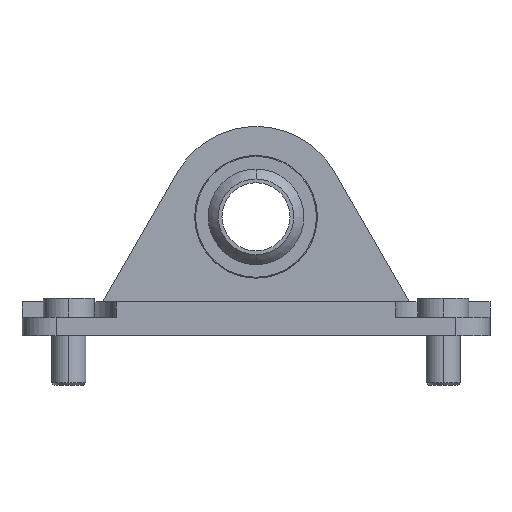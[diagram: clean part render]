
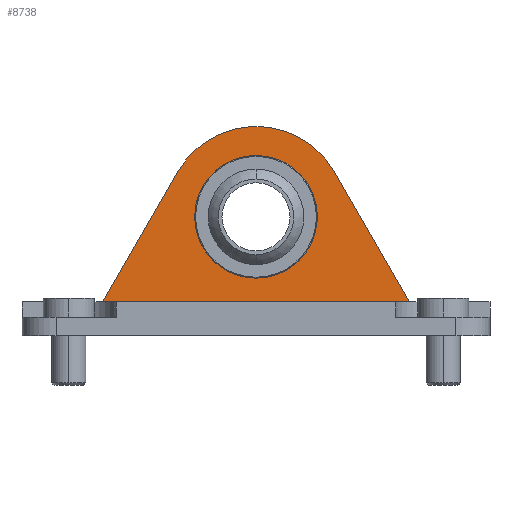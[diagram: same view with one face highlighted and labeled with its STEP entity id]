
A CAD part, left-side view. The second image highlights one B-rep face of the part: STEP entity #8738.
In plain terms, the highlighted planar face has unit normal (-1, 0, 0.018).
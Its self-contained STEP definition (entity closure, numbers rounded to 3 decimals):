
#388=DIRECTION('',(0.,1.,0.));
#389=VECTOR('',#388,180.133);
#390=CARTESIAN_POINT('',(-17.5,-90.067,20.));
#391=LINE('',#390,#389);
#1860=DIRECTION('',(0.015,-0.5,0.866));
#1861=VECTOR('',#1860,88.345);
#1862=CARTESIAN_POINT('',(-17.5,90.067,20.));
#1863=LINE('',#1862,#1861);
#1864=CARTESIAN_POINT('',(-16.165,45.899,96.5));
#1865=CARTESIAN_POINT('',(-16.15,45.421,97.328));
#1866=CARTESIAN_POINT('',(-16.123,44.465,98.882));
#1867=CARTESIAN_POINT('',(-16.087,43.031,100.974));
#1868=CARTESIAN_POINT('',(-16.053,41.596,102.871));
#1869=CARTESIAN_POINT('',(-16.013,39.684,105.185));
#1870=CARTESIAN_POINT('',(-15.969,37.293,107.731));
#1871=CARTESIAN_POINT('',(-15.923,34.425,110.357));
#1872=CARTESIAN_POINT('',(-15.883,31.556,112.632));
#1873=CARTESIAN_POINT('',(-15.837,27.731,115.267));
#1874=CARTESIAN_POINT('',(-15.791,22.95,117.914));
#1875=CARTESIAN_POINT('',(-15.75,17.212,120.249));
#1876=CARTESIAN_POINT('',(-15.722,11.475,121.854));
#1877=CARTESIAN_POINT('',(-15.706,5.737,122.794));
#1878=CARTESIAN_POINT('',(-15.7,0.,123.103));
#1879=CARTESIAN_POINT('',(-15.706,-5.737,
122.794));
#1880=CARTESIAN_POINT('',(-15.722,-11.475,
121.854));
#1881=CARTESIAN_POINT('',(-15.75,-17.212,
120.249));
#1882=CARTESIAN_POINT('',(-15.791,-22.95,
117.914));
#1883=CARTESIAN_POINT('',(-15.837,-27.731,
115.267));
#1884=CARTESIAN_POINT('',(-15.883,-31.556,
112.632));
#1885=CARTESIAN_POINT('',(-15.923,-34.425,
110.357));
#1886=CARTESIAN_POINT('',(-15.969,-37.293,
107.731));
#1887=CARTESIAN_POINT('',(-16.013,-39.684,
105.185));
#1888=CARTESIAN_POINT('',(-16.053,-41.596,
102.871));
#1889=CARTESIAN_POINT('',(-16.087,-43.031,
100.974));
#1890=CARTESIAN_POINT('',(-16.123,-44.465,
98.882));
#1891=CARTESIAN_POINT('',(-16.15,-45.421,97.328));
#1892=CARTESIAN_POINT('',(-16.165,-45.899,96.5));
#1894=DIRECTION('',(-0.015,-0.5,-0.866));
#1895=VECTOR('',#1894,88.345);
#1896=CARTESIAN_POINT('',(-16.165,-45.899,96.5));
#1897=LINE('',#1896,#1895);
#1954=CARTESIAN_POINT('',(-17.,-28.982,48.645));
#1955=CARTESIAN_POINT('',(-17.014,-28.378,
47.826));
#1956=CARTESIAN_POINT('',(-17.04,-27.171,
46.33));
#1957=CARTESIAN_POINT('',(-17.074,-25.359,
44.406));
#1958=CARTESIAN_POINT('',(-17.103,-23.548,
42.735));
#1959=CARTESIAN_POINT('',(-17.137,-21.133,
40.786));
#1960=CARTESIAN_POINT('',(-17.172,-18.114,
38.796));
#1961=CARTESIAN_POINT('',(-17.204,-14.491,
36.967));
#1962=CARTESIAN_POINT('',(-17.228,-10.868,
35.61));
#1963=CARTESIAN_POINT('',(-17.244,-7.246,
34.672));
#1964=CARTESIAN_POINT('',(-17.254,-3.623,
34.121));
#1965=CARTESIAN_POINT('',(-17.257,0.,
33.939));
#1966=CARTESIAN_POINT('',(-17.254,3.623,34.121));
#1967=CARTESIAN_POINT('',(-17.244,7.246,34.672));
#1968=CARTESIAN_POINT('',(-17.228,10.868,35.61));
#1969=CARTESIAN_POINT('',(-17.204,14.491,36.967));
#1970=CARTESIAN_POINT('',(-17.172,18.114,38.796));
#1971=CARTESIAN_POINT('',(-17.137,21.133,40.786));
#1972=CARTESIAN_POINT('',(-17.103,23.548,42.735));
#1973=CARTESIAN_POINT('',(-17.074,25.359,44.406));
#1974=CARTESIAN_POINT('',(-17.04,27.171,46.33));
#1975=CARTESIAN_POINT('',(-17.014,28.378,47.826));
#1976=CARTESIAN_POINT('',(-17.,28.982,48.645));
#2017=CARTESIAN_POINT('',(-17.,28.982,48.645));
#2018=CARTESIAN_POINT('',(-16.981,29.776,49.723));
#2019=CARTESIAN_POINT('',(-16.941,31.299,52.042));
#2020=CARTESIAN_POINT('',(-16.871,33.278,56.015));
#2021=CARTESIAN_POINT('',(-16.794,34.826,60.462));
#2022=CARTESIAN_POINT('',(-16.709,35.815,65.322));
#2023=CARTESIAN_POINT('',(-16.619,36.125,70.493));
#2024=CARTESIAN_POINT('',(-16.525,35.662,75.833));
#2025=CARTESIAN_POINT('',(-16.432,34.373,81.166));
#2026=CARTESIAN_POINT('',(-16.343,32.258,86.3));
#2027=CARTESIAN_POINT('',(-16.26,29.379,91.048));
#2028=CARTESIAN_POINT('',(-16.187,25.851,95.25));
#2029=CARTESIAN_POINT('',(-16.125,21.826,98.79));
#2030=CARTESIAN_POINT('',(-16.076,17.479,101.608));
#2031=CARTESIAN_POINT('',(-16.045,13.73,103.347));
#2032=CARTESIAN_POINT('',(-16.027,10.731,104.39));
#2033=CARTESIAN_POINT('',(-16.016,8.497,105.008));
#2034=CARTESIAN_POINT('',(-16.008,6.295,105.468));
#2035=CARTESIAN_POINT('',(-16.004,4.496,105.731));
#2036=CARTESIAN_POINT('',(-16.001,3.084,105.873));
#2037=CARTESIAN_POINT('',(-16.,2.039,105.947));
#2038=CARTESIAN_POINT('',(-15.999,1.181,105.983));
#2039=CARTESIAN_POINT('',(-15.999,0.503,
105.998));
#2040=CARTESIAN_POINT('',(-15.999,0.,
106.001));
#2041=CARTESIAN_POINT('',(-15.999,-0.503,
105.998));
#2042=CARTESIAN_POINT('',(-15.999,-1.181,
105.983));
#2043=CARTESIAN_POINT('',(-16.,-2.039,
105.947));
#2044=CARTESIAN_POINT('',(-16.001,-3.084,
105.873));
#2045=CARTESIAN_POINT('',(-16.004,-4.496,
105.731));
#2046=CARTESIAN_POINT('',(-16.008,-6.295,
105.468));
#2047=CARTESIAN_POINT('',(-16.016,-8.497,
105.008));
#2048=CARTESIAN_POINT('',(-16.027,-10.731,
104.39));
#2049=CARTESIAN_POINT('',(-16.045,-13.73,
103.347));
#2050=CARTESIAN_POINT('',(-16.076,-17.479,
101.608));
#2051=CARTESIAN_POINT('',(-16.125,-21.826,
98.79));
#2052=CARTESIAN_POINT('',(-16.187,-25.851,
95.25));
#2053=CARTESIAN_POINT('',(-16.26,-29.379,
91.048));
#2054=CARTESIAN_POINT('',(-16.343,-32.258,
86.3));
#2055=CARTESIAN_POINT('',(-16.432,-34.373,
81.166));
#2056=CARTESIAN_POINT('',(-16.525,-35.662,
75.833));
#2057=CARTESIAN_POINT('',(-16.619,-36.125,
70.493));
#2058=CARTESIAN_POINT('',(-16.709,-35.815,
65.322));
#2059=CARTESIAN_POINT('',(-16.794,-34.826,
60.462));
#2060=CARTESIAN_POINT('',(-16.871,-33.278,
56.015));
#2061=CARTESIAN_POINT('',(-16.941,-31.299,
52.042));
#2062=CARTESIAN_POINT('',(-16.981,-29.776,
49.723));
#2063=CARTESIAN_POINT('',(-17.,-28.982,48.645));
#5736=VERTEX_POINT('',#1864);
#5737=VERTEX_POINT('',#1892);
#5740=CARTESIAN_POINT('',(-17.5,-90.067,20.));
#5741=CARTESIAN_POINT('',(-17.5,90.067,20.));
#5742=VERTEX_POINT('',#5740);
#5743=VERTEX_POINT('',#5741);
#5785=CARTESIAN_POINT('',(-17.,28.982,48.645));
#5787=VERTEX_POINT('',#5785);
#5792=CARTESIAN_POINT('',(-17.,-28.982,48.645));
#5793=VERTEX_POINT('',#5792);
#8718=CARTESIAN_POINT('',(-17.5,-90.187,20.));
#8719=DIRECTION('',(1.,0.,-0.017));
#8720=DIRECTION('',(0.,-1.,0.));
#8721=AXIS2_PLACEMENT_3D('',#8718,#8719,#8720);
#8722=PLANE('',#8721);
#8723=ORIENTED_EDGE('',*,*,#7778,.T.);
#8725=ORIENTED_EDGE('',*,*,#8724,.T.);
#8727=ORIENTED_EDGE('',*,*,#8726,.T.);
#8729=ORIENTED_EDGE('',*,*,#8728,.T.);
#8730=EDGE_LOOP('',(#8723,#8725,#8727,#8729));
#8731=FACE_OUTER_BOUND('',#8730,.F.);
#8733=ORIENTED_EDGE('',*,*,#8732,.F.);
#8735=ORIENTED_EDGE('',*,*,#8734,.F.);
#8736=EDGE_LOOP('',(#8733,#8735));
#8737=FACE_BOUND('',#8736,.F.);
#8738=ADVANCED_FACE('',(#8731,#8737),#8722,.F.);
#1893=B_SPLINE_CURVE_WITH_KNOTS('',3,(#1864,#1865,#1866,#1867,#1868,#1869,#1870,
#1871,#1872,#1873,#1874,#1875,#1876,#1877,#1878,#1879,#1880,#1881,#1882,#1883,
#1884,#1885,#1886,#1887,#1888,#1889,#1890,#1891,#1892),.UNSPECIFIED.,.F.,.F.,(4,
1,1,1,1,1,1,1,1,1,1,1,1,1,1,1,1,1,1,1,1,1,1,1,1,1,4),(0.,0.016,0.031,
0.047,0.063,0.094,0.125,0.156,0.188,0.25,0.313,0.375,
0.438,0.5,0.563,0.625,0.688,0.75,0.813,0.844,0.875,
0.906,0.938,0.953,0.969,0.984,1.),.UNSPECIFIED.);
#1977=B_SPLINE_CURVE_WITH_KNOTS('',3,(#1954,#1955,#1956,#1957,#1958,#1959,#1960,
#1961,#1962,#1963,#1964,#1965,#1966,#1967,#1968,#1969,#1970,#1971,#1972,#1973,
#1974,#1975,#1976),.UNSPECIFIED.,.F.,.F.,(4,1,1,1,1,1,1,1,1,1,1,1,1,1,1,1,1,1,1,
1,4),(0.,0.031,0.063,0.094,0.125,0.188,0.25,0.313,0.375,
0.438,0.5,0.563,0.625,0.688,0.75,0.813,0.875,0.906,
0.938,0.969,1.),.UNSPECIFIED.);
#2064=B_SPLINE_CURVE_WITH_KNOTS('',3,(#2017,#2018,#2019,#2020,#2021,#2022,#2023,
#2024,#2025,#2026,#2027,#2028,#2029,#2030,#2031,#2032,#2033,#2034,#2035,#2036,
#2037,#2038,#2039,#2040,#2041,#2042,#2043,#2044,#2045,#2046,#2047,#2048,#2049,
#2050,#2051,#2052,#2053,#2054,#2055,#2056,#2057,#2058,#2059,#2060,#2061,#2062,
#2063),.UNSPECIFIED.,.F.,.F.,(4,1,1,1,1,1,1,1,1,1,1,1,1,1,1,1,1,1,1,1,1,1,1,1,1,
1,1,1,1,1,1,1,1,1,1,1,1,1,1,1,1,1,1,1,4),(0.,0.031,0.063,0.094,
0.125,0.156,0.188,0.219,0.25,0.281,0.313,0.344,
0.375,0.406,0.422,0.438,0.453,0.469,0.477,
0.484,0.492,0.496,0.5,0.504,0.508,0.516,
0.523,0.531,0.547,0.563,0.578,0.594,0.625,
0.656,0.688,0.719,0.75,0.781,0.813,0.844,0.875,
0.906,0.938,0.969,1.),.UNSPECIFIED.);
#7778=EDGE_CURVE('',#5742,#5743,#391,.T.);
#8724=EDGE_CURVE('',#5743,#5736,#1863,.T.);
#8726=EDGE_CURVE('',#5736,#5737,#1893,.T.);
#8728=EDGE_CURVE('',#5737,#5742,#1897,.T.);
#8732=EDGE_CURVE('',#5793,#5787,#1977,.T.);
#8734=EDGE_CURVE('',#5787,#5793,#2064,.T.);
